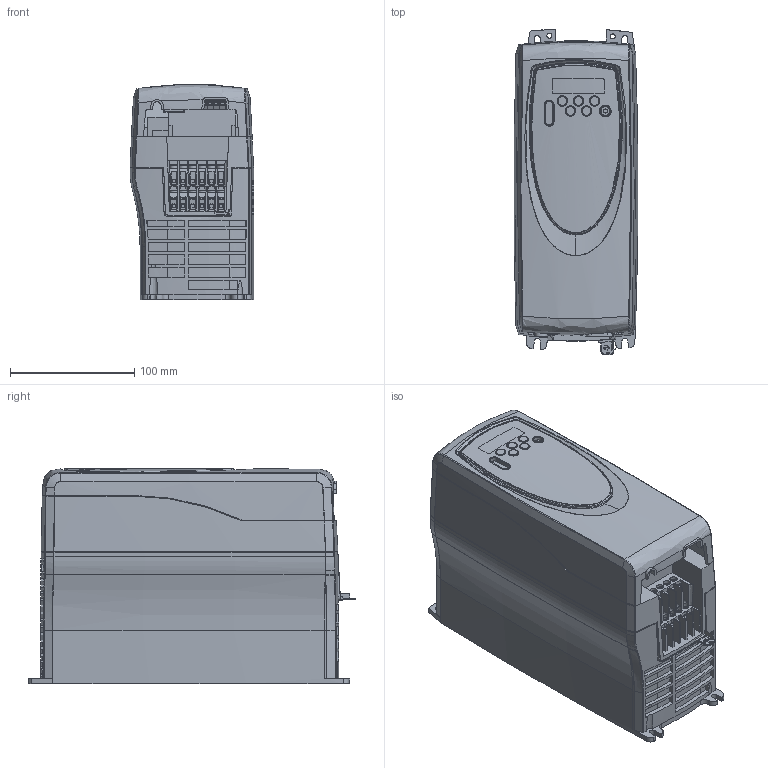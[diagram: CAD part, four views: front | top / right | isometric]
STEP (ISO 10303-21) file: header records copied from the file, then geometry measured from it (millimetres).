
FILE_DESCRIPTION((''),'2;1');
FILE_NAME('PK-SEQ-SK-C-ALL-NO-STICK','2006-12-19T',('summne01'),(''),'PRO/ENGINEER BY PARAMETRIC TECHNOLOGY CORPORATION, 2006320','PRO/ENGINEER BY PARAMETRIC TECHNOLOGY CORPORATION, 2006320','');
FILE_SCHEMA(('CONFIG_CONTROL_DESIGN'));
Length unit declared in the file: millimetre
Products named in the file (1): PK-SEQ-SK-C-ALL-NO-STICK
Bounding box: 99.9 x 262.71 x 173.8 mm (x, y, z)
Surface area: 399294.4 mm2 (no closed solid volume)
Topology: 0 solids, 209 shells, 2343 faces, 9032 edges, 6665 vertices
Faces by surface type: plane 1560, cylinder 558, bspline 115, cone 88, torus 22
Entity records: 104747 total; most frequent: CARTESIAN_POINT 33371, ORIENTED_EDGE 13900, DIRECTION 13051, EDGE_CURVE 9016, VERTEX_POINT 6657, VECTOR 6121, LINE 6121, AXIS2_PLACEMENT_3D 3465
